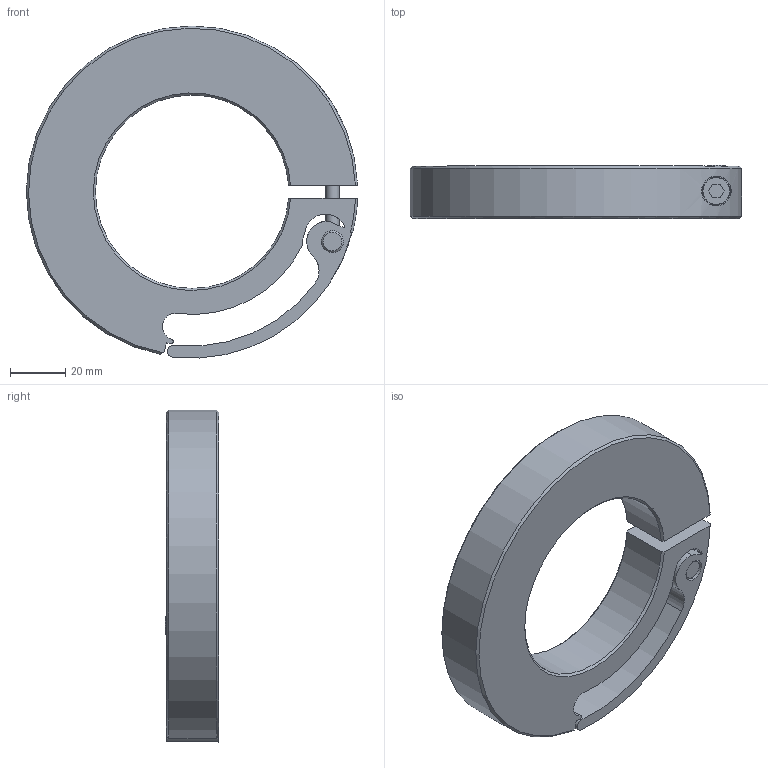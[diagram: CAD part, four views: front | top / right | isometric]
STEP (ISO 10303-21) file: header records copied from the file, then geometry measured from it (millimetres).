
FILE_DESCRIPTION((''),'2;1');
FILE_NAME('MQCL-70-A','2016-09-09T',('SYSTEM'),(''),'PRO/ENGINEER BY PARAMETRIC TECHNOLOGY CORPORATION, 2015110','PRO/ENGINEER BY PARAMETRIC TECHNOLOGY CORPORATION, 2015110','');
FILE_SCHEMA(('AUTOMOTIVE_DESIGN { 1 0 10303 214 1 1 1 1 }'));
Length unit declared in the file: metre
Products named in the file (1): MQCL-70-A
Bounding box: 119.95 x 19.43 x 120.21 mm (x, y, z)
Volume: 122058.1 mm3; surface area: 30691.8 mm2
Topology: 1 solids, 1 shells, 81 faces, 238 edges, 162 vertices
Faces by surface type: cylinder 40, plane 25, cone 16
Entity records: 3477 total; most frequent: CARTESIAN_POINT 750, DIRECTION 479, ORIENTED_EDGE 476, EDGE_CURVE 238, AXIS2_PLACEMENT_3D 192, VERTEX_POINT 162, CIRCLE 111, VECTOR 95
